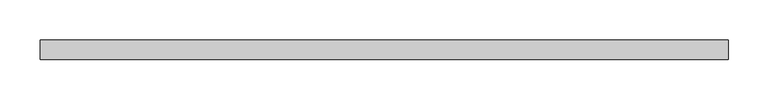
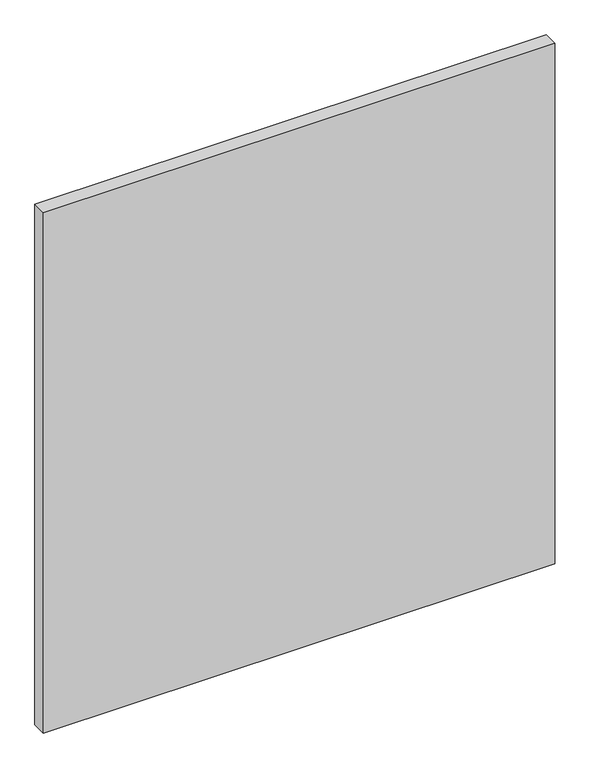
"""IFC4 building model written with IfcOpenShell, lengths in millimetres: plate geometry, Системная панель : ADSK_Cтеклопакет_25."""

from ifc_helpers import new_model, si_unit, origin, origin_with_axes, place, context, project, spatial, polyline, outline, extrude, source, transform, mapped, element, save


def plate_a005b7e8(model_context):
    return source(origin(), model_context, "Body", "SweptSolid", [
        extrude(outline(polyline([(430.0, -12.5), (-430.0, -12.5), (-430.0, 12.5), (430.0, 12.5), (430.0, -12.5)])), origin_with_axes(), (0.0, 0.0, 1.0), 925.0),
    ])


if __name__ == "__main__":
    model = new_model("IFC4")
    model_context = context("Model", 3, world=origin())
    ifc_project = project(units=[si_unit("LENGTHUNIT", "METRE", prefix="MILLI")], contexts=[model_context])
    site = spatial("IfcSite", under=ifc_project)
    building = spatial("IfcBuilding", under=site)
    placement = place(None, origin())
    plate_shape = plate_a005b7e8(model_context)
    element("IfcPlate", 1, ObjectType="Системная панель : ADSK_Cтеклопакет_25", at=placement, inside=building, context=model_context, shape_type="MappedRepresentation", body=[
        mapped(plate_shape, transform((0.0, 0.0, 0.0), x_axis=(1.0, 0.0, 0.0), y_axis=(0.0, 1.0, 0.0), z_axis=(0.0, 0.0, 1.0))),
    ])
    save(model, "model.ifc")
